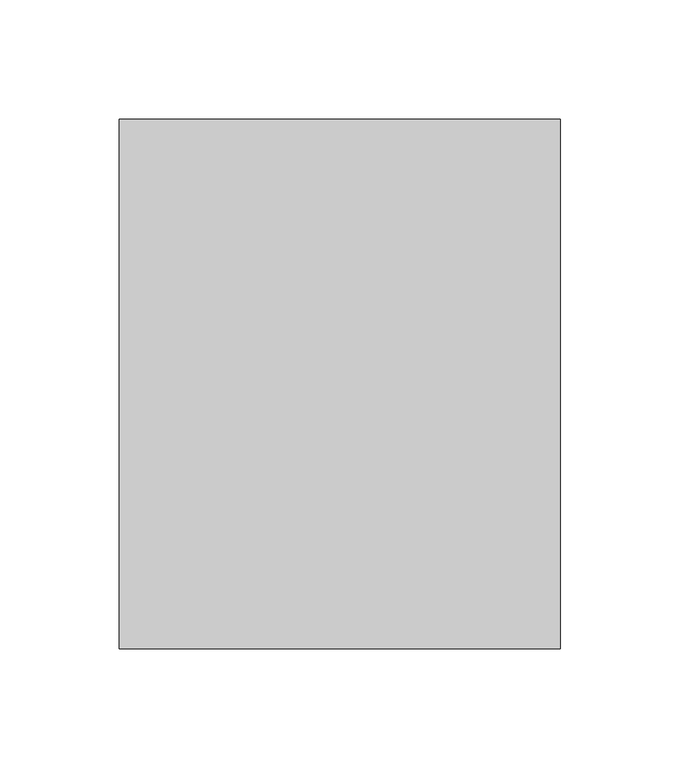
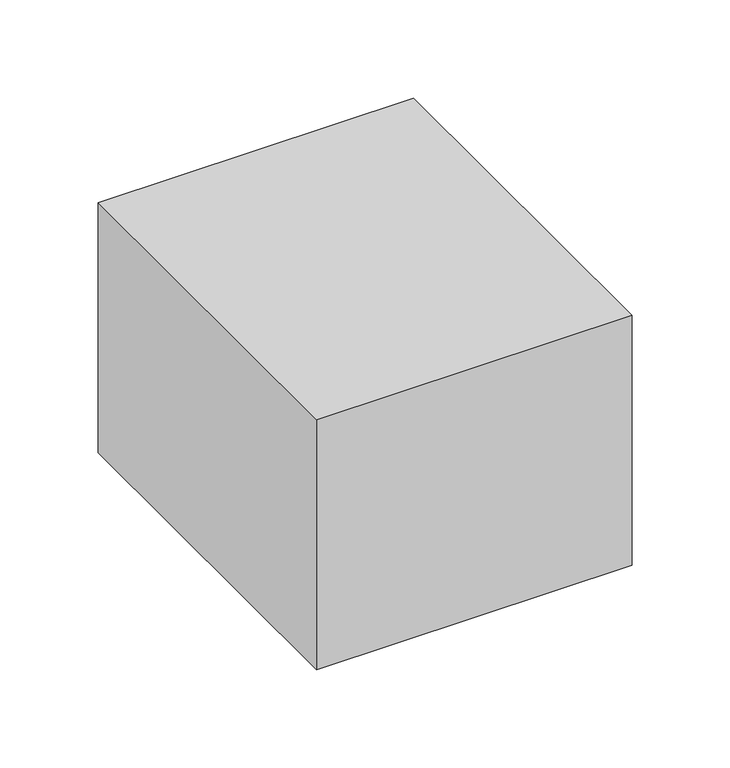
"""IFC4 building model written with IfcOpenShell, lengths in millimetres: light fixture geometry,  209 :  211969."""

from ifc_helpers import new_model, si_unit, frame, origin, place, context, project, spatial, polyline, outline, extrude, source, transform, mapped, element, save


def light_fixture_36c6db67(model_context):
    return source(origin(), model_context, "Body", "SweptSolid", [
        extrude(outline(polyline([(6406.2546511, -7685.4208255), (6591.2546511, -7685.4208255), (6591.2546511, -7907.4208255), (6406.2546511, -7907.4208255), (6406.2546511, -7685.4208255)])), frame((0.0, 0.0, 1375.0), z_axis=(0.0, 0.0, 1.0), x_axis=(1.0, 0.0, 0.0)), (0.0, 0.0, 1.0), 155.0),
    ])


if __name__ == "__main__":
    model = new_model("IFC4")
    model_context = context("Model", 3, world=origin())
    ifc_project = project(units=[si_unit("LENGTHUNIT", "METRE", prefix="MILLI")], contexts=[model_context])
    site = spatial("IfcSite", under=ifc_project)
    building = spatial("IfcBuilding", under=site)
    placement = place(None, origin())
    light_fixture_shape = light_fixture_36c6db67(model_context)
    element("IfcLightFixture", 1, ObjectType=" 209 :  211969", at=placement, inside=building, context=model_context, shape_type="MappedRepresentation", body=[
        mapped(light_fixture_shape, transform((0.0, 0.0, 0.0), x_axis=(1.0, 0.0, 0.0), y_axis=(0.0, 1.0, 0.0), z_axis=(0.0, 0.0, 1.0))),
    ])
    save(model, "model.ifc")
